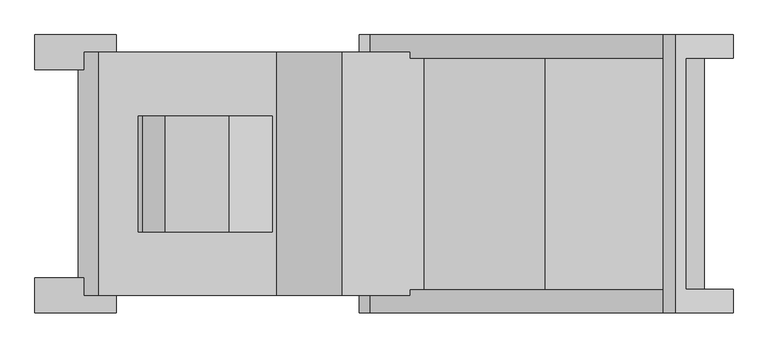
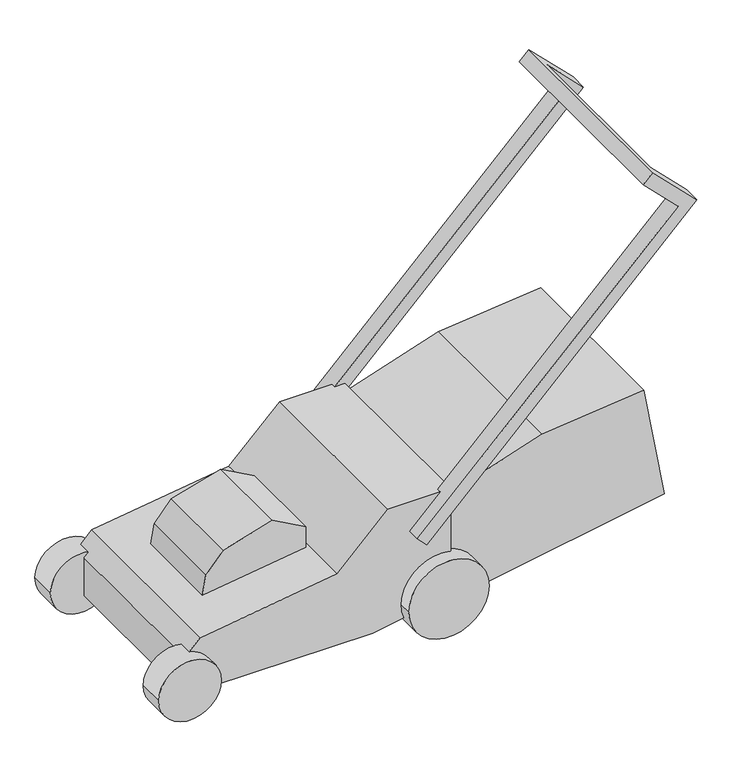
"""IFC4 building model written with IfcOpenShell, lengths in millimetres: geographic element geometry, Lawn Mower : Lawn Mower."""

from ifc_helpers import new_model, si_unit, point, frame, frame_2d, origin, place, context, project, spatial, circle_curve, trimmed, segment, composite_curve, outline, extrude, source, transform, mapped, element, save
from ifc_brep_helpers import plane_surface, cylinder_surface, advanced_brep


def geographic_element_e14939d7(model_context):
    return source(origin(), model_context, "Body", "SolidModel", [
        extrude(outline(composite_curve([segment(trimmed(circle_curve(frame_2d((88.8582539, -607.1295764)), 88.9), [point((88.8582539, -696.0295764))], [point((88.8582539, -518.2295764))], False, "CARTESIAN"), True, "CONTINUOUS"), segment(trimmed(circle_curve(frame_2d((88.8582539, -607.1295764)), 88.9), [point((88.8582539, -518.2295764))], [point((88.8582539, -696.0295764))], False, "CARTESIAN"), True, "CONTINUOUS")], self_intersect=False)), frame((0.0, 228.6, 0.0), z_axis=(0.0, 1.0, 0.0), x_axis=(0.0, 0.0, 1.0)), (0.0, 0.0, 1.0), 76.2),
        extrude(outline(composite_curve([segment(trimmed(circle_curve(frame_2d((106.434886, 128.5780238)), 114.3), [point((106.434886, 14.2780238))], [point((106.434886, 242.8780238))], False, "CARTESIAN"), True, "CONTINUOUS"), segment(trimmed(circle_curve(frame_2d((106.434886, 128.5780238)), 114.3), [point((106.434886, 242.8780238))], [point((106.434886, 14.2780238))], False, "CARTESIAN"), True, "CONTINUOUS")], self_intersect=False)), frame((0.0, 228.6, 0.0), z_axis=(0.0, 1.0, 0.0), x_axis=(0.0, 0.0, 1.0)), (0.0, 0.0, 1.0), 76.2),
        advanced_brep(
        [(833.7054384, 304.8, 1059.0093371), (65.8935401, 304.8, 291.1974388), (38.9527717, 304.8, 318.1382072), (779.8239017, 304.8, 1059.0093371), (681.0410844, 304.8, 1157.7921545), (707.9818528, 304.8, 1184.7329228), (833.7054384, 254.0, 1059.0093371), (730.4324931, 254.0, 1162.2822825), (703.4917247, 254.0, 1135.3415142), (779.8239017, 254.0, 1059.0093371), (126.6122898, 254.0, 405.7977253), (155.6961013, 254.0, 405.7977253), (155.6961013, 254.0, 381.0), (707.9818528, -304.8, 1184.7329228), (833.7054384, -304.8, 1059.0093371), (833.7054384, -254.0, 1059.0093371), (730.4324931, -254.0, 1162.2822825), (681.0410844, -304.8, 1157.7921545), (703.4917247, -254.0, 1135.3415142), (779.8239017, -254.0, 1059.0093371), (779.8239017, -304.8, 1059.0093371), (38.9527717, 266.7, 318.1382072), (126.6122898, 266.7, 405.7977253), (65.8935401, 266.7, 291.1974388), (155.6961013, 266.7, 381.0), (38.9527717, -304.8, 318.1382072), (65.8935401, -304.8, 291.1974388), (155.6961013, -254.0, 381.0), (155.6961013, -254.0, 405.7977253), (126.6122898, -254.0, 405.7977253), (126.6122898, -266.7, 405.7977253), (38.9527717, -266.7, 318.1382072), (65.8935401, -266.7, 291.1974388), (155.6961013, -266.7, 381.0), (-65.9581, -266.7, 48.6830948), (22.3461013, -266.7, 64.253508), (14.2780238, -266.7, 106.434886), (155.6961013, -266.7, 217.4713659), (-22.7742026, -266.7, 405.7977253), (-166.4583005, -266.7, 262.1136273), (-556.3268392, -266.7, 207.3211775), (-587.977316, -266.7, 175.6707007), (-518.2295764, -266.7, 88.8582539), (-527.8253105, -266.7, 48.6830948), (-65.9581, 266.7, 48.6830948), (-601.2281198, 266.7, 48.6830948), (-601.2281198, 266.7, 162.4198969), (-556.3268392, 266.7, 207.3211775), (-166.4583005, 266.7, 262.1136273), (-22.7742026, 266.7, 405.7977253), (155.6961013, 266.7, 118.5330948), (22.3461013, 266.7, 118.5330948), (22.3461013, 266.7, 64.253508), (22.3461013, -228.6, 64.253508), (22.3461013, -228.6, 118.5330948), (155.6961013, 254.0, 118.5330948), (155.6961013, -228.6, 118.5330948), (155.6961013, -254.0, 217.4713659), (-175.7679754, -127.0, 260.8052378), (-469.4798527, -127.0, 219.5267254), (-469.4798527, 127.0, 219.5267254), (-175.7679754, 127.0, 260.8052378), (-601.2281198, -228.6, 162.4198969), (-587.977316, -228.6, 175.6707007), (-601.2281198, -228.6, 48.6830948), (-527.8253105, -228.6, 48.6830948), (-459.5558593, -127.0, 275.8084885), (-175.7679754, -127.0, 322.1027124), (-270.1831728, -127.0, 374.4379109), (-410.5754435, -127.0, 334.1810751), (-459.5558593, 127.0, 275.8084885), (-410.5754435, 127.0, 334.1810751), (-270.1831728, 127.0, 374.4379109), (-175.7679754, 127.0, 322.1027124), (-696.0295764, -304.8, 88.8582539), (-518.2295764, -304.8, 88.8582539), (14.2780238, -304.8, 106.434886), (242.8780238, -304.8, 106.434886), (155.6961013, -228.6, 58.0528049), (237.7297743, -228.6, 72.5175548), (-696.0295764, -228.6, 88.8582539), (237.7297743, -254.0, 72.5175548), (242.8780238, -254.0, 106.434886), (421.421292, -254.0, 467.3393482), (770.3624318, -254.0, 166.4350631), (711.9211376, -254.0, 497.8721123), (421.421292, 254.0, 467.3393482), (711.9211376, 254.0, 497.8721123), (770.3624318, 254.0, 166.4350631), (155.6961013, 254.0, 58.0528049)],
        [
            (0, 1),
            (1, 2),
            (2, 3),
            (3, 4),
            (4, 5),
            (5, 0),
            (6, 7),
            (7, 8),
            (8, 9),
            (9, 10),
            (10, 11),
            (11, 12),
            (12, 6),
            (5, 13),
            (13, 14),
            (14, 15),
            (15, 16),
            (16, 7),
            (6, 0),
            (4, 17),
            (17, 13),
            (3, 9),
            (8, 18),
            (18, 19),
            (19, 20),
            (20, 17),
            (2, 21),
            (21, 22),
            (22, 10),
            (1, 23),
            (23, 21),
            (12, 24),
            (24, 23),
            (16, 18),
            (20, 25),
            (25, 26),
            (26, 14),
            (15, 27),
            (27, 28),
            (28, 29),
            (29, 19),
            (29, 30),
            (30, 31),
            (31, 25),
            (31, 32),
            (32, 26),
            (32, 33),
            (33, 27),
            (34, 35),
            (35, 36, circle_curve(frame((128.5780238, -266.7, 106.434886), z_axis=(0.0, 1.0, 0.0), x_axis=(1.0, 0.0, 0.0)), 114.3)),
            (36, 37, circle_curve(frame((128.5780238, -266.7, 106.434886), z_axis=(0.0, 1.0, 0.0), x_axis=(1.0, 0.0, 0.0)), 114.3)),
            (37, 33),
            (30, 38),
            (38, 39),
            (39, 40),
            (40, 41),
            (41, 42, circle_curve(frame((-607.1295764, -266.7, 88.8582539), z_axis=(0.0, 1.0, 0.0), x_axis=(1.0, 0.0, 0.0)), 88.9)),
            (42, 43, circle_curve(frame((-607.1295764, -266.7, 88.8582539), z_axis=(0.0, 1.0, 0.0), x_axis=(1.0, 0.0, 0.0)), 88.9)),
            (43, 34),
            (44, 45),
            (45, 46),
            (46, 47),
            (47, 48),
            (48, 49),
            (49, 22),
            (24, 50),
            (50, 51),
            (51, 52),
            (52, 44),
            (34, 44),
            (52, 53),
            (53, 35),
            (51, 54),
            (54, 53),
            (50, 55),
            (55, 56),
            (56, 54),
            (37, 57),
            (57, 27),
            (12, 55),
            (11, 28),
            (27, 12),
            (49, 38),
            (48, 39),
            (47, 40),
            (58, 59),
            (59, 60),
            (60, 61),
            (61, 58),
            (46, 62),
            (62, 63),
            (63, 41),
            (45, 64),
            (64, 62),
            (43, 65),
            (65, 64),
            (66, 59),
            (58, 67),
            (67, 68),
            (68, 69),
            (69, 66),
            (70, 71),
            (71, 72),
            (72, 73),
            (73, 61),
            (60, 70),
            (66, 70),
            (73, 67),
            (72, 68),
            (71, 69),
            (74, 75, circle_curve(frame((-607.1295764, -304.8, 88.8582539), z_axis=(0.0, -1.0, 0.0), x_axis=(1.0, 0.0, 0.0)), 88.9)),
            (75, 74, circle_curve(frame((-607.1295764, -304.8, 88.8582539), z_axis=(0.0, -1.0, 0.0), x_axis=(1.0, 0.0, 0.0)), 88.9)),
            (76, 77, circle_curve(frame((128.5780238, -304.8, 106.434886), z_axis=(0.0, -1.0, 0.0), x_axis=(1.0, 0.0, 0.0)), 114.3)),
            (77, 76, circle_curve(frame((128.5780238, -304.8, 106.434886), z_axis=(0.0, -1.0, 0.0), x_axis=(1.0, 0.0, 0.0)), 114.3)),
            (56, 78),
            (78, 79),
            (79, 53, circle_curve(frame((128.5780238, -228.6, 106.434886), z_axis=(0.0, 1.0, 0.0), x_axis=(1.0, 0.0, 0.0)), 114.3)),
            (80, 63, circle_curve(frame((-607.1295764, -228.6, 88.8582539), z_axis=(0.0, 1.0, 0.0), x_axis=(1.0, 0.0, 0.0)), 88.9)),
            (65, 80, circle_curve(frame((-607.1295764, -228.6, 88.8582539), z_axis=(0.0, 1.0, 0.0), x_axis=(1.0, 0.0, 0.0)), 88.9)),
            (74, 80),
            (42, 75),
            (76, 36),
            (79, 81),
            (81, 82, circle_curve(frame((128.5780238, -254.0, 106.434886), z_axis=(0.0, -1.0, 0.0), x_axis=(1.0, 0.0, 0.0)), 114.3)),
            (82, 77),
            (82, 57, circle_curve(frame((128.5780238, -254.0, 106.434886), z_axis=(0.0, -1.0, 0.0), x_axis=(1.0, 0.0, 0.0)), 114.3)),
            (83, 27),
            (81, 84),
            (84, 85),
            (85, 83),
            (86, 87),
            (87, 88),
            (88, 89),
            (89, 55),
            (12, 86),
            (83, 86),
            (89, 78),
            (88, 84),
            (87, 85),
        ],
        [
            plane_surface(frame((833.7054384, 304.8, 1059.0093371), z_axis=(0.0, 1.0000000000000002, 0.0), x_axis=(0.7071067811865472, 0.0, -0.707106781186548))),
            plane_surface(frame((833.7054384, 254.0, 1059.0093371), z_axis=(0.0, -1.0000000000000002, 0.0), x_axis=(-0.7071067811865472, 0.0, 0.707106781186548))),
            plane_surface(frame((833.7054384, 254.0, 1059.0093371), z_axis=(0.707106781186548, 0.0, 0.7071067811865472), x_axis=(0.0, 1.0, 0.0))),
            plane_surface(frame((707.9818528, 254.0, 1184.7329228), z_axis=(-0.7071067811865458, 0.0, 0.7071067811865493), x_axis=(0.0, 1.0, 0.0))),
            plane_surface(frame((681.0410844, 254.0, 1157.7921545), z_axis=(-0.707106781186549, 0.0, -0.7071067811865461), x_axis=(0.0, 1.0, 0.0))),
            plane_surface(frame((779.8239017, 254.0, 1059.0093371), z_axis=(-0.7071067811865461, 0.0, 0.7071067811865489), x_axis=(0.0, 1.0, 0.0))),
            plane_surface(frame((38.9527717, 254.0, 318.1382072), z_axis=(-0.7071067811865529, 0.0, -0.7071067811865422), x_axis=(0.0, 1.0, 0.0))),
            plane_surface(frame((65.8935401, 254.0, 291.1974388), z_axis=(0.7071067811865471, 0.0, -0.707106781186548), x_axis=(0.0, 1.0, 0.0))),
            plane_surface(frame((703.4917247, -254.0, 1135.3415142), z_axis=(0.7071067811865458, 0.0, -0.7071067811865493), x_axis=(0.0, 1.0, 0.0))),
            plane_surface(frame((833.7054384, -304.8, 1059.0093371), z_axis=(0.0, -1.0000000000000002, 0.0), x_axis=(-0.7071067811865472, 0.0, 0.707106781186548))),
            plane_surface(frame((833.7054384, -254.0, 1059.0093371), z_axis=(0.0, 1.0000000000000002, 0.0), x_axis=(0.7071067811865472, 0.0, -0.707106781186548))),
            plane_surface(frame((779.8239017, -304.8, 1059.0093371), z_axis=(-0.7071067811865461, 0.0, 0.7071067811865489), x_axis=(0.0, 1.0, 0.0))),
            plane_surface(frame((38.9527717, -304.8, 318.1382072), z_axis=(-0.7071067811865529, 0.0, -0.7071067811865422), x_axis=(0.0, 1.0, 0.0))),
            plane_surface(frame((65.8935401, -304.8, 291.1974388), z_axis=(0.7071067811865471, 0.0, -0.707106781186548), x_axis=(0.0, 1.0, 0.0))),
            plane_surface(frame((-65.9581, -266.7, 48.6830948), z_axis=(0.0, -1.0000000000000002, 0.0), x_axis=(0.9848077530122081, 0.0, 0.17364817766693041))),
            plane_surface(frame((-65.9581, 266.7, 48.6830948), z_axis=(0.0, 1.0000000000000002, 0.0), x_axis=(-0.9848077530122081, 0.0, -0.17364817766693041))),
            plane_surface(frame((-65.9581, -266.7, 48.6830948), z_axis=(0.17364817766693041, 0.0, -0.9848077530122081), x_axis=(0.0, 1.0, 0.0))),
            plane_surface(frame((22.3461013, -266.7, 64.253508), z_axis=(1.0, 0.0, 0.0), x_axis=(0.0, 1.0, 0.0))),
            plane_surface(frame((22.3461013, -266.7, 118.5330948), z_axis=(0.0, 0.0, -1.0), x_axis=(0.0, 1.0, 0.0))),
            plane_surface(frame((155.6961013, -266.7, 118.5330948), z_axis=(1.0, 0.0, 0.0), x_axis=(0.0, 1.0, 0.0))),
            plane_surface(frame((155.6961013, -266.7, 405.7977253), z_axis=(0.0, 0.0, 1.0), x_axis=(0.0, 1.0, 0.0))),
            plane_surface(frame((-22.7742026, -266.7, 405.7977253), z_axis=(-0.7071067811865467, 0.0, 0.7071067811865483), x_axis=(0.0, 1.0, 0.0))),
            plane_surface(frame((-166.4583005, -266.7, 262.1136273), z_axis=(-0.1391731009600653, 0.0, 0.9902680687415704), x_axis=(0.0, 1.0, 0.0))),
            plane_surface(frame((-556.3268392, -266.7, 207.3211775), z_axis=(-0.7071067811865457, 0.0, 0.7071067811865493), x_axis=(0.0, 1.0, 0.0))),
            plane_surface(frame((-601.2281198, -266.7, 162.4198969), z_axis=(-1.0, 0.0, 0.0), x_axis=(0.0, 1.0, 0.0))),
            plane_surface(frame((-601.2281198, -266.7, 48.6830948), z_axis=(0.0, 0.0, -1.0), x_axis=(0.0, 1.0, 0.0))),
            plane_surface(frame((-469.4798527, -127.0, 219.5267254), z_axis=(0.0, -1.0000000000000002, 0.0), x_axis=(-0.17364817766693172, 0.0, -0.9848077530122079))),
            plane_surface(frame((-469.4798527, 127.0, 219.5267254), z_axis=(0.0, 1.0000000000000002, 0.0), x_axis=(0.17364817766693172, 0.0, 0.9848077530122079))),
            plane_surface(frame((-459.5558593, -127.0, 275.8084885), z_axis=(-0.9848077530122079, 0.0, 0.17364817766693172), x_axis=(0.0, 1.0, 0.0))),
            plane_surface(frame((-175.7679754, -127.0, 260.8052378), z_axis=(1.0, 0.0, 0.0), x_axis=(0.0, 1.0, 0.0))),
            plane_surface(frame((-175.7679754, -127.0, 322.1027124), z_axis=(0.48480962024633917, 0.0, 0.8746197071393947), x_axis=(0.0, 1.0, 0.0))),
            plane_surface(frame((-270.1831728, -127.0, 374.4379109), z_axis=(-0.27563735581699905, 0.0, 0.961261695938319), x_axis=(0.0, 1.0, 0.0))),
            plane_surface(frame((-410.5754435, -127.0, 334.1810751), z_axis=(-0.7660444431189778, 0.0, 0.6427876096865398), x_axis=(0.0, 1.0, 0.0))),
            plane_surface(frame((-518.2295764, -304.8, 88.8582539), z_axis=(0.0, -1.0, 0.0), x_axis=(0.0, 0.0, 1.0))),
            plane_surface(frame((-518.2295764, -228.6, 88.8582539), z_axis=(0.0, 1.0, 0.0), x_axis=(0.0, 0.0, -1.0))),
            cylinder_surface(frame((-607.1295764, -228.6, 88.8582539), z_axis=(0.0, -1.0, 0.0), x_axis=(1.0, 0.0, 0.0)), 88.9),
            cylinder_surface(frame((128.5780238, 0.0, 106.434886), z_axis=(0.0, -1.0, 0.0), x_axis=(1.0, 0.0, 0.0)), 114.3),
            plane_surface(frame((155.6961013, -254.0, 381.0), z_axis=(0.0, -1.0000000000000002, 0.0), x_axis=(-0.9510565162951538, 0.0, -0.3090169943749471))),
            plane_surface(frame((155.6961013, 254.0, 381.0), z_axis=(0.0, 1.0000000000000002, 0.0), x_axis=(0.9510565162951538, 0.0, 0.3090169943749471))),
            plane_surface(frame((421.421292, -254.0, 467.3393482), z_axis=(-0.3090169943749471, 0.0, 0.9510565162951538), x_axis=(0.0, 1.0, 0.0))),
            plane_surface(frame((155.6961013, -254.0, 381.0), z_axis=(-1.0, 0.0, 0.0), x_axis=(0.0, 1.0, 0.0))),
            plane_surface(frame((155.6961013, -254.0, 58.0528049), z_axis=(0.17364817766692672, 0.0, -0.9848077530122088), x_axis=(0.0, 1.0, 0.0))),
            plane_surface(frame((770.3624318, -254.0, 166.4350631), z_axis=(0.9848077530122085, 0.0, 0.17364817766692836), x_axis=(0.0, 1.0, 0.0))),
            plane_surface(frame((711.9211376, -254.0, 497.8721123), z_axis=(-0.10452846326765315, 0.0, 0.9945218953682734), x_axis=(0.0, 1.0, 0.0))),
        ],
        [
            (0, [[1, 2, 3, 4, 5, 6]]),
            (1, [[7, 8, 9, 10, 11, 12, 13]]),
            (2, [[-6, 14, 15, 16, 17, 18, -7, 19]]),
            (3, [[-5, 20, 21, -14]]),
            (4, [[-4, 22, -9, 23, 24, 25, 26, -20]]),
            (5, [[-3, 27, 28, 29, -10, -22]]),
            (6, [[-2, 30, 31, -27]]),
            (7, [[-1, -19, -13, 32, 33, -30]]),
            (8, [[-23, -8, -18, 34]]),
            (9, [[-15, -21, -26, 35, 36, 37]]),
            (10, [[-17, 38, 39, 40, 41, -24, -34]]),
            (11, [[-35, -25, -41, 42, 43, 44]]),
            (12, [[-36, -44, 45, 46]]),
            (13, [[-37, -46, 47, 48, -38, -16]]),
            (14, [[49, 50, 51, 52, -47, -45, -43, 53, 54, 55, 56, 57, 58, 59]]),
            (15, [[60, 61, 62, 63, 64, 65, -28, -31, -33, 66, 67, 68, 69]]),
            (16, [[-49, 70, -69, 71, 72]]),
            (17, [[-68, 73, 74, -71]]),
            (18, [[-67, 75, 76, 77, -73]]),
            (19, [[-48, -52, 78, 79]]),
            (19, [[-66, -32, 80, -75]]),
            (19, [[81, -39, 82, -12]]),
            (20, [[83, -53, -42, -40, -81, -11, -29, -65]]),
            (21, [[-54, -83, -64, 84]]),
            (22, [[-55, -84, -63, 85], [86, 87, 88, 89]]),
            (23, [[-62, 90, 91, 92, -56, -85]]),
            (24, [[-61, 93, 94, -90]]),
            (25, [[-60, -70, -59, 95, 96, -93]]),
            (26, [[97, -86, 98, 99, 100, 101]]),
            (27, [[102, 103, 104, 105, -88, 106]]),
            (28, [[-97, 107, -106, -87]]),
            (29, [[-98, -89, -105, 108]]),
            (30, [[-99, -108, -104, 109]]),
            (31, [[-100, -109, -103, 110]]),
            (32, [[-101, -110, -102, -107]]),
            (33, [[111, 112]]),
            (33, [[113, 114]]),
            (34, [[-74, -77, 115, 116, 117]]),
            (34, [[118, -91, -94, -96, 119]]),
            (35, [[-111, 120, -119, -95, -58, 121]]),
            (35, [[-112, -121, -57, -92, -118, -120]]),
            (36, [[-113, 122, -50, -72, -117, 123, 124, 125]]),
            (36, [[-114, -125, 126, -78, -51, -122]]),
            (37, [[127, -79, -126, -124, 128, 129, 130]]),
            (38, [[131, 132, 133, 134, -80, 135]]),
            (39, [[-127, 136, -135, -82]]),
            (40, [[-134, 137, -115, -76]]),
            (41, [[-133, 138, -128, -123, -116, -137]]),
            (42, [[-129, -138, -132, 139]]),
            (43, [[-130, -139, -131, -136]]),
        ],
    ),
    ])


if __name__ == "__main__":
    model = new_model("IFC4")
    model_context = context("Model", 3, world=origin())
    ifc_project = project(units=[si_unit("LENGTHUNIT", "METRE", prefix="MILLI")], contexts=[model_context])
    site = spatial("IfcSite", under=ifc_project)
    building = spatial("IfcBuilding", under=site)
    placement = place(None, origin())
    geographic_element_shape = geographic_element_e14939d7(model_context)
    element("IfcGeographicElement", 1, ObjectType="Lawn Mower : Lawn Mower", at=placement, inside=building, context=model_context, shape_type="MappedRepresentation", body=[
        mapped(geographic_element_shape, transform((0.0, 0.0, 0.0), x_axis=(1.0, 0.0, 0.0), y_axis=(0.0, 1.0, 0.0), z_axis=(0.0, 0.0, 1.0))),
    ])
    save(model, "model.ifc")
